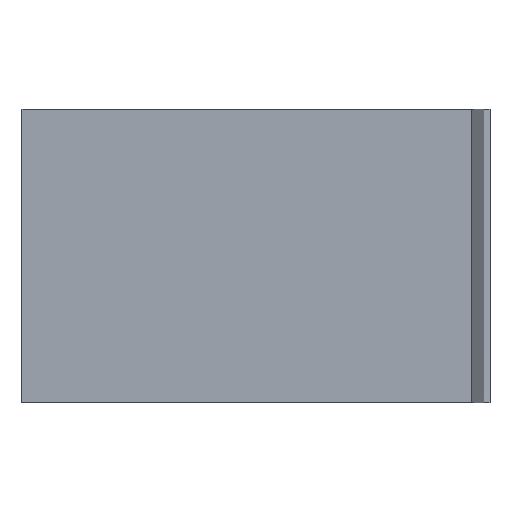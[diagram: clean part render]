
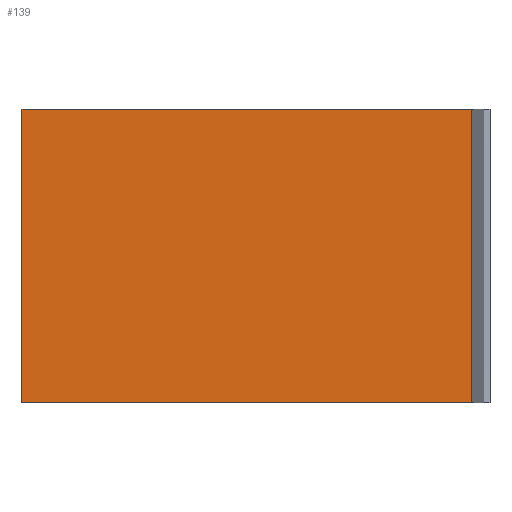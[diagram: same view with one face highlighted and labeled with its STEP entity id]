
A CAD part, left-side view. The second image highlights one B-rep face of the part: STEP entity #139.
In plain terms, the highlighted planar face has unit normal (-1, 0, 0).
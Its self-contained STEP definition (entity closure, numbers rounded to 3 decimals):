
#139 = ADVANCED_FACE ( 'NONE', ( #6159 ), #6579, .F. ) ;
#193 = VECTOR ( 'NONE', #4894, 1000. ) ;
#250 = LINE ( 'NONE', #4055, #4484 ) ;
#745 = VECTOR ( 'NONE', #4881, 1000. ) ;
#779 = VERTEX_POINT ( 'NONE', #5921 ) ;
#1207 = LINE ( 'NONE', #5462, #193 ) ;
#1210 = DIRECTION ( 'NONE',  ( 1., 0., 0. ) ) ;
#1674 = CARTESIAN_POINT ( 'NONE',  ( -76.2, -18.36, 25. ) ) ;
#1751 = CARTESIAN_POINT ( 'NONE',  ( -76.2, -18.36, 0. ) ) ;
#1909 = VERTEX_POINT ( 'NONE', #1751 ) ;
#2342 = ORIENTED_EDGE ( 'NONE', *, *, #5734, .F. ) ;
#2448 = CARTESIAN_POINT ( 'NONE',  ( -76.2, 19.97, 25. ) ) ;
#2562 = VERTEX_POINT ( 'NONE', #2448 ) ;
#2738 = LINE ( 'NONE', #4428, #745 ) ;
#2915 = VECTOR ( 'NONE', #4202, 1000. ) ;
#2996 = DIRECTION ( 'NONE',  ( 0., 0., 1. ) ) ;
#3017 = CARTESIAN_POINT ( 'NONE',  ( -76.2, -18.36, 25. ) ) ;
#3213 = LINE ( 'NONE', #1674, #2915 ) ;
#3532 = EDGE_CURVE ( 'NONE', #779, #1909, #2738, .T. ) ;
#3743 = ORIENTED_EDGE ( 'NONE', *, *, #6737, .F. ) ;
#3759 = ORIENTED_EDGE ( 'NONE', *, *, #3532, .T. ) ;
#3924 = DIRECTION ( 'NONE',  ( 0., 1., 0. ) ) ;
#4055 = CARTESIAN_POINT ( 'NONE',  ( -76.2, 19.97, 25. ) ) ;
#4180 = EDGE_CURVE ( 'NONE', #2562, #6434, #1207, .T. ) ;
#4202 = DIRECTION ( 'NONE',  ( 0., 0., -1. ) ) ;
#4428 = CARTESIAN_POINT ( 'NONE',  ( -76.2, 26.4, 0. ) ) ;
#4484 = VECTOR ( 'NONE', #2996, 1000. ) ;
#4881 = DIRECTION ( 'NONE',  ( 0., -1., 0. ) ) ;
#4885 = EDGE_LOOP ( 'NONE', ( #4912, #3743, #3759, #2342 ) ) ;
#4894 = DIRECTION ( 'NONE',  ( 0., -1., 0. ) ) ;
#4912 = ORIENTED_EDGE ( 'NONE', *, *, #4180, .F. ) ;
#4976 = CARTESIAN_POINT ( 'NONE',  ( -76.2, -18.36, 25. ) ) ;
#5462 = CARTESIAN_POINT ( 'NONE',  ( -76.2, 26.4, 25. ) ) ;
#5627 = AXIS2_PLACEMENT_3D ( 'NONE', #4976, #1210, #3924 ) ;
#5734 = EDGE_CURVE ( 'NONE', #6434, #1909, #3213, .T. ) ;
#5921 = CARTESIAN_POINT ( 'NONE',  ( -76.2, 19.97, 0. ) ) ;
#6159 = FACE_OUTER_BOUND ( 'NONE', #4885, .T. ) ;
#6434 = VERTEX_POINT ( 'NONE', #3017 ) ;
#6579 = PLANE ( 'NONE',  #5627 ) ;
#6737 = EDGE_CURVE ( 'NONE', #779, #2562, #250, .T. ) ;
